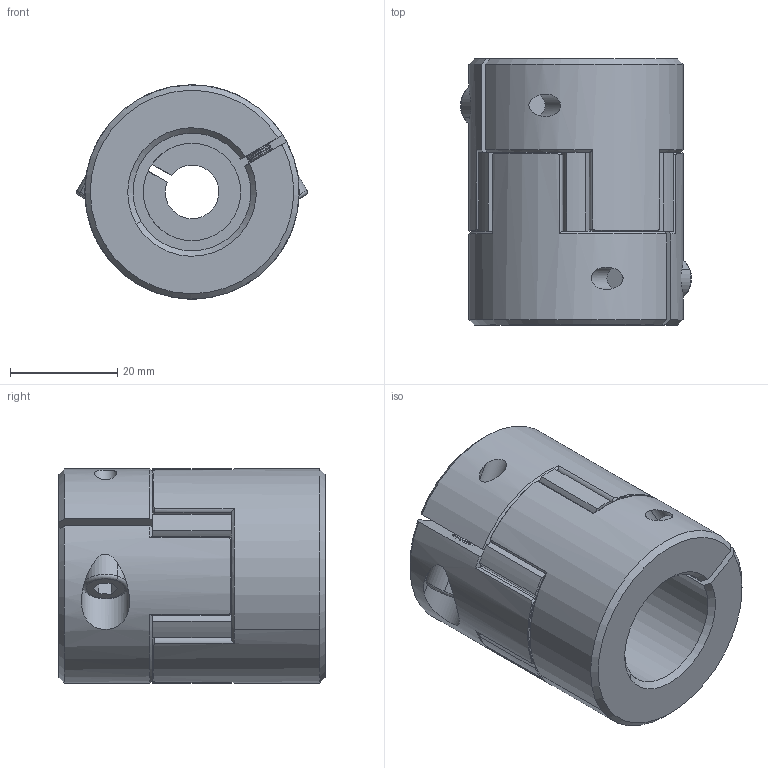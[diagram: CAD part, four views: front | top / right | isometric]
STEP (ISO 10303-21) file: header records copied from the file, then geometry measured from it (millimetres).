
FILE_DESCRIPTION (( 'STEP AP203' ), '1' );
FILE_NAME ('LF-B-D40L50-10-22.STEP', '2021-10-25T02:40:30', ( '' ), ( '' ), 'SwSTEP 2.0', 'SolidWorks 2018', '' );
FILE_SCHEMA (( 'CONFIG_CONTROL_DESIGN' ));
Length unit declared in the file: millimetre
Products named in the file (1): LF-B-D40L50-10-22
Bounding box: 43.11 x 49.7 x 40 mm (x, y, z)
Volume: 48951.6 mm3; surface area: 14733 mm2
Topology: 1 solids, 7 shells, 470 faces, 1113 edges, 660 vertices
Faces by surface type: cone 170, cylinder 169, plane 127, torus 4
Entity records: 13932 total; most frequent: CARTESIAN_POINT 2888, DIRECTION 2501, ORIENTED_EDGE 2218, EDGE_CURVE 1109, AXIS2_PLACEMENT_3D 1037, VERTEX_POINT 660, CIRCLE 566, EDGE_LOOP 487
